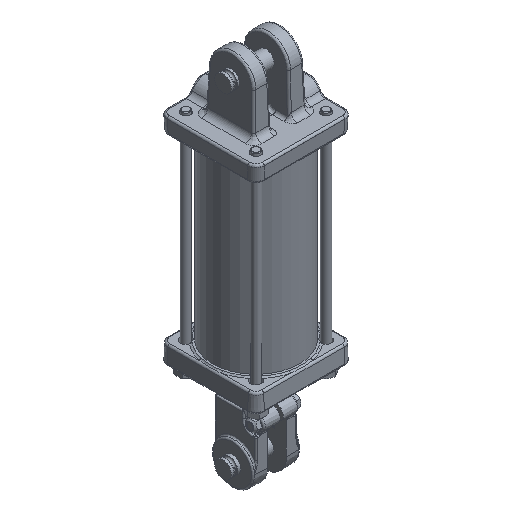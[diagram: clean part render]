
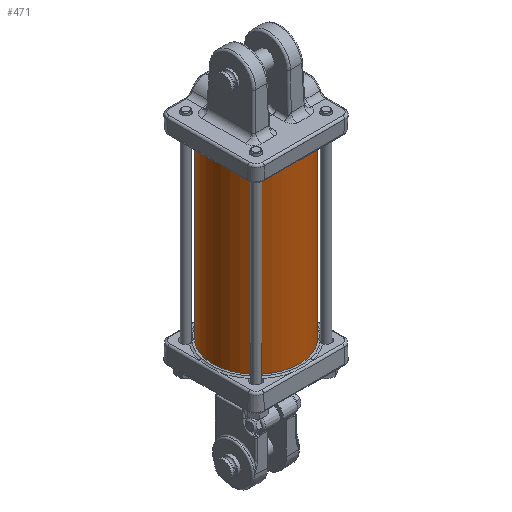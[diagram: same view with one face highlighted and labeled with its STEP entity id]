
A CAD part, isometric view. The second image highlights one B-rep face of the part: STEP entity #471.
In plain terms, the highlighted cylindrical face has radius 66.675 mm (diameter 133.35 mm), a full revolution.
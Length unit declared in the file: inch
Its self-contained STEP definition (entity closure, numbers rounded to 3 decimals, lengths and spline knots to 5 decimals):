
#210=CARTESIAN_POINT('',(-1.029,2.62443,0.0545));
#211=VERTEX_POINT('',#210);
#212=CARTESIAN_POINT('',(-1.029,2.62443,0.0545));
#213=CARTESIAN_POINT('',(-1.03584,2.62443,0.0545));
#214=CARTESIAN_POINT('',(-1.04314,2.62446,0.05313));
#215=CARTESIAN_POINT('',(-1.05657,2.62457,0.04757));
#216=CARTESIAN_POINT('',(-1.0627,2.62465,0.04338));
#217=CARTESIAN_POINT('',(-1.07238,2.62479,0.0337));
#218=CARTESIAN_POINT('',(-1.07657,2.62486,0.02757));
#219=CARTESIAN_POINT('',(-1.08213,2.62497,0.01414));
#220=CARTESIAN_POINT('',(-1.0835,2.625,0.00684));
#221=CARTESIAN_POINT('',(-1.0835,2.625,-0.00684));
#222=CARTESIAN_POINT('',(-1.08213,2.62497,-0.01414));
#223=CARTESIAN_POINT('',(-1.07657,2.62486,-0.02757));
#224=CARTESIAN_POINT('',(-1.07238,2.62479,-0.0337));
#225=CARTESIAN_POINT('',(-1.0627,2.62465,-0.04338));
#226=CARTESIAN_POINT('',(-1.05657,2.62457,-0.04757));
#227=CARTESIAN_POINT('',(-1.04314,2.62446,-0.05313));
#228=CARTESIAN_POINT('',(-1.03584,2.62443,-0.0545));
#229=CARTESIAN_POINT('',(-1.02216,2.62443,-0.0545));
#230=CARTESIAN_POINT('',(-1.01486,2.62446,-0.05313));
#231=CARTESIAN_POINT('',(-1.00143,2.62457,-0.04757));
#232=CARTESIAN_POINT('',(-0.9953,2.62465,-0.04338));
#233=CARTESIAN_POINT('',(-0.98562,2.62479,-0.0337));
#234=CARTESIAN_POINT('',(-0.98143,2.62486,-0.02757));
#235=CARTESIAN_POINT('',(-0.97587,2.62497,-0.01414));
#236=CARTESIAN_POINT('',(-0.9745,2.625,-0.00684));
#237=CARTESIAN_POINT('',(-0.9745,2.625,0.00684));
#238=CARTESIAN_POINT('',(-0.97587,2.62497,0.01414));
#239=CARTESIAN_POINT('',(-0.98143,2.62486,0.02757));
#240=CARTESIAN_POINT('',(-0.98562,2.62479,0.0337));
#241=CARTESIAN_POINT('',(-0.9953,2.62465,0.04338));
#242=CARTESIAN_POINT('',(-1.00143,2.62457,0.04757));
#243=CARTESIAN_POINT('',(-1.01486,2.62446,0.05313));
#244=CARTESIAN_POINT('',(-1.02216,2.62443,0.0545));
#245=CARTESIAN_POINT('',(-1.029,2.62443,0.0545));
#246=B_SPLINE_CURVE_WITH_KNOTS('',3,(#212,#213,#214,#215,#216,#217,#218,#219,#220,#221,#222,#223,#224,#225,#226,#227,#228,#229,#230,#231,#232,#233,#234,#235,#236,#237,#238,#239,#240,#241,#242,#243,#244,#245),.UNSPECIFIED.,.T.,.U.,(4,2,2,2,2,2,2,2,2,2,2,2,2,2,2,2,4),(0.0,0.05215,0.10429,0.15644,0.20859,0.26073,0.31288,0.36502,0.41717,0.46932,0.52146,0.57361,0.62576,0.6779,0.73005,0.7822,0.83434),.UNSPECIFIED.);
#247=EDGE_CURVE('',#211,#211,#246,.T.);
#298=CARTESIAN_POINT('',(-1.409,2.62482,0.031));
#299=VERTEX_POINT('',#298);
#300=CARTESIAN_POINT('',(-1.409,2.62482,0.031));
#301=CARTESIAN_POINT('',(-1.41289,2.62482,0.031));
#302=CARTESIAN_POINT('',(-1.41704,2.62483,0.03022));
#303=CARTESIAN_POINT('',(-1.42468,2.62486,0.02706));
#304=CARTESIAN_POINT('',(-1.42817,2.62489,0.02467));
#305=CARTESIAN_POINT('',(-1.43367,2.62493,0.01917));
#306=CARTESIAN_POINT('',(-1.43606,2.62496,0.01568));
#307=CARTESIAN_POINT('',(-1.43922,2.62499,0.00804));
#308=CARTESIAN_POINT('',(-1.44,2.625,0.00389));
#309=CARTESIAN_POINT('',(-1.44,2.625,-0.00389));
#310=CARTESIAN_POINT('',(-1.43922,2.62499,-0.00804));
#311=CARTESIAN_POINT('',(-1.43606,2.62496,-0.01568));
#312=CARTESIAN_POINT('',(-1.43367,2.62493,-0.01917));
#313=CARTESIAN_POINT('',(-1.42817,2.62489,-0.02467));
#314=CARTESIAN_POINT('',(-1.42468,2.62486,-0.02706));
#315=CARTESIAN_POINT('',(-1.41704,2.62483,-0.03022));
#316=CARTESIAN_POINT('',(-1.41289,2.62482,-0.031));
#317=CARTESIAN_POINT('',(-1.40511,2.62482,-0.031));
#318=CARTESIAN_POINT('',(-1.40096,2.62483,-0.03022));
#319=CARTESIAN_POINT('',(-1.39332,2.62486,-0.02706));
#320=CARTESIAN_POINT('',(-1.38983,2.62489,-0.02467));
#321=CARTESIAN_POINT('',(-1.38433,2.62493,-0.01917));
#322=CARTESIAN_POINT('',(-1.38194,2.62496,-0.01568));
#323=CARTESIAN_POINT('',(-1.37878,2.62499,-0.00804));
#324=CARTESIAN_POINT('',(-1.378,2.625,-0.00389));
#325=CARTESIAN_POINT('',(-1.378,2.625,0.00389));
#326=CARTESIAN_POINT('',(-1.37878,2.62499,0.00804));
#327=CARTESIAN_POINT('',(-1.38194,2.62496,0.01568));
#328=CARTESIAN_POINT('',(-1.38433,2.62493,0.01917));
#329=CARTESIAN_POINT('',(-1.38983,2.62489,0.02467));
#330=CARTESIAN_POINT('',(-1.39332,2.62486,0.02706));
#331=CARTESIAN_POINT('',(-1.40096,2.62483,0.03022));
#332=CARTESIAN_POINT('',(-1.40511,2.62482,0.031));
#333=CARTESIAN_POINT('',(-1.409,2.62482,0.031));
#334=B_SPLINE_CURVE_WITH_KNOTS('',3,(#300,#301,#302,#303,#304,#305,#306,#307,#308,#309,#310,#311,#312,#313,#314,#315,#316,#317,#318,#319,#320,#321,#322,#323,#324,#325,#326,#327,#328,#329,#330,#331,#332,#333),.UNSPECIFIED.,.T.,.U.,(4,2,2,2,2,2,2,2,2,2,2,2,2,2,2,2,4),(0.0,0.02966,0.05932,0.08898,0.11864,0.1483,0.17796,0.20762,0.23728,0.26695,0.29661,0.32627,0.35593,0.38559,0.41525,0.44491,0.47457),.UNSPECIFIED.);
#335=EDGE_CURVE('',#299,#299,#334,.T.);
#345=CARTESIAN_POINT('',(0.,2.625,0.0));
#346=VERTEX_POINT('',#345);
#347=CARTESIAN_POINT('',(0.,0.0,0.0));
#348=DIRECTION('',(1.0,0.0,0.0));
#349=DIRECTION('',(0.0,1.0,0.0));
#350=AXIS2_PLACEMENT_3D('',#347,#348,#349);
#351=CIRCLE('',#350,2.625);
#352=EDGE_CURVE('',#346,#346,#351,.T.);
#439=CARTESIAN_POINT('',(-10.844,2.625,0.0));
#440=VERTEX_POINT('',#439);
#441=CARTESIAN_POINT('',(-10.844,0.0,0.0));
#442=DIRECTION('',(1.0,0.0,0.0));
#443=DIRECTION('',(0.0,1.0,0.0));
#444=AXIS2_PLACEMENT_3D('',#441,#442,#443);
#445=CIRCLE('',#444,2.625);
#446=EDGE_CURVE('',#440,#440,#445,.T.);
#454=CARTESIAN_POINT('',(-5.422,0.0,0.0));
#455=DIRECTION('',(1.0,0.0,0.0));
#456=DIRECTION('',(0.0,1.0,0.0));
#457=AXIS2_PLACEMENT_3D('',#454,#455,#456);
#458=CYLINDRICAL_SURFACE('',#457,2.625);
#459=ORIENTED_EDGE('',*,*,#352,.F.);
#460=EDGE_LOOP('',(#459));
#461=FACE_OUTER_BOUND('',#460,.T.);
#462=ORIENTED_EDGE('',*,*,#247,.T.);
#463=EDGE_LOOP('',(#462));
#464=FACE_BOUND('',#463,.T.);
#465=ORIENTED_EDGE('',*,*,#335,.T.);
#466=EDGE_LOOP('',(#465));
#467=FACE_BOUND('',#466,.T.);
#468=ORIENTED_EDGE('',*,*,#446,.T.);
#469=EDGE_LOOP('',(#468));
#470=FACE_BOUND('',#469,.T.);
#471=ADVANCED_FACE('',(#461,#464,#467,#470),#458,.T.);
